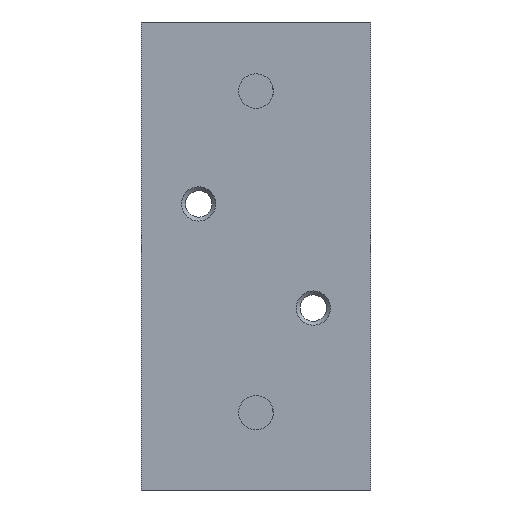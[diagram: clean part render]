
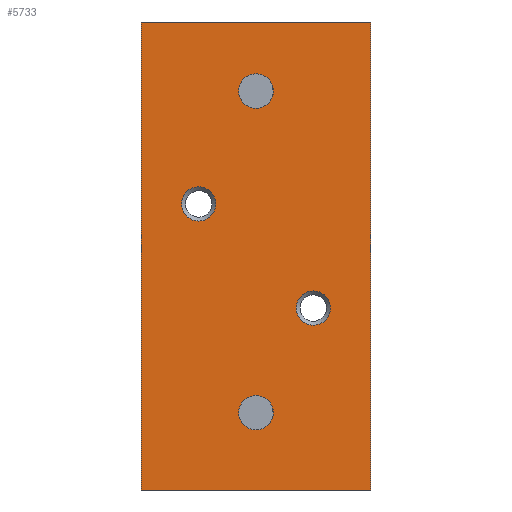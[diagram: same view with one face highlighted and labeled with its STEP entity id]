
A CAD part, front view. The second image highlights one B-rep face of the part: STEP entity #5733.
In plain terms, the highlighted planar face has unit normal (0, -1, 0).
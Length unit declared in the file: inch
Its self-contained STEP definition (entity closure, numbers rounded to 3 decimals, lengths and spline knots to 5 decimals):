
#280=FACE_BOUND('',#1276,.T.);
#281=FACE_BOUND('',#1277,.T.);
#282=FACE_BOUND('',#1278,.T.);
#283=FACE_BOUND('',#1279,.T.);
#737=PLANE('',#6119);
#938=FACE_OUTER_BOUND('',#1275,.T.);
#1275=EDGE_LOOP('',(#4559,#4560,#4561,#4562));
#1276=EDGE_LOOP('',(#4563));
#1277=EDGE_LOOP('',(#4564));
#1278=EDGE_LOOP('',(#4565));
#1279=EDGE_LOOP('',(#4566));
#1719=LINE('',#9271,#2138);
#1720=LINE('',#9273,#2139);
#1721=LINE('',#9275,#2140);
#1722=LINE('',#9276,#2141);
#2138=VECTOR('',#6768,0.3937);
#2139=VECTOR('',#6769,0.3937);
#2140=VECTOR('',#6770,0.3937);
#2141=VECTOR('',#6771,0.3937);
#2314=CIRCLE('',#6038,0.131);
#2317=CIRCLE('',#6042,0.131);
#2322=CIRCLE('',#6117,0.13);
#2324=CIRCLE('',#6120,0.13);
#2372=VERTEX_POINT('',#7407);
#2375=VERTEX_POINT('',#7415);
#2632=VERTEX_POINT('',#9263);
#2634=VERTEX_POINT('',#9269);
#2635=VERTEX_POINT('',#9270);
#2636=VERTEX_POINT('',#9272);
#2637=VERTEX_POINT('',#9274);
#2638=VERTEX_POINT('',#9277);
#2939=EDGE_CURVE('',#2372,#2372,#2314,.T.);
#2943=EDGE_CURVE('',#2375,#2375,#2317,.T.);
#3324=EDGE_CURVE('',#2632,#2632,#2322,.T.);
#3327=EDGE_CURVE('',#2634,#2635,#1719,.T.);
#3328=EDGE_CURVE('',#2636,#2634,#1720,.T.);
#3329=EDGE_CURVE('',#2637,#2636,#1721,.T.);
#3330=EDGE_CURVE('',#2635,#2637,#1722,.T.);
#3331=EDGE_CURVE('',#2638,#2638,#2324,.T.);
#4559=ORIENTED_EDGE('',*,*,#3327,.F.);
#4560=ORIENTED_EDGE('',*,*,#3328,.F.);
#4561=ORIENTED_EDGE('',*,*,#3329,.F.);
#4562=ORIENTED_EDGE('',*,*,#3330,.F.);
#4563=ORIENTED_EDGE('',*,*,#2939,.T.);
#4564=ORIENTED_EDGE('',*,*,#2943,.T.);
#4565=ORIENTED_EDGE('',*,*,#3331,.F.);
#4566=ORIENTED_EDGE('',*,*,#3324,.F.);
#5733=ADVANCED_FACE('',(#938,#280,#281,#282,#283),#737,.T.);
#6038=AXIS2_PLACEMENT_3D('',#7409,#6360,#6361);
#6042=AXIS2_PLACEMENT_3D('',#7417,#6369,#6370);
#6117=AXIS2_PLACEMENT_3D('',#9264,#6761,#6762);
#6119=AXIS2_PLACEMENT_3D('',#9268,#6766,#6767);
#6120=AXIS2_PLACEMENT_3D('',#9278,#6772,#6773);
#6360=DIRECTION('center_axis',(0.,1.,0.));
#6361=DIRECTION('ref_axis',(1.,0.,0.));
#6369=DIRECTION('center_axis',(0.,1.,0.));
#6370=DIRECTION('ref_axis',(1.,0.,0.));
#6761=DIRECTION('center_axis',(0.,-1.,0.));
#6762=DIRECTION('ref_axis',(1.,0.,0.));
#6766=DIRECTION('center_axis',(0.,-1.,0.));
#6767=DIRECTION('ref_axis',(0.,0.,-1.));
#6768=DIRECTION('',(1.,0.,0.));
#6769=DIRECTION('',(0.,0.,1.));
#6770=DIRECTION('',(-1.,0.,0.));
#6771=DIRECTION('',(0.,0.,-1.));
#6772=DIRECTION('center_axis',(0.,-1.,0.));
#6773=DIRECTION('ref_axis',(1.,0.,0.));
#7407=CARTESIAN_POINT('',(-0.131,0.,1.25128));
#7409=CARTESIAN_POINT('Origin',(0.,0.,1.25128));
#7415=CARTESIAN_POINT('',(-0.131,0.,-1.18872));
#7417=CARTESIAN_POINT('Origin',(0.,0.,-1.18872));
#9263=CARTESIAN_POINT('',(-0.565,0.,0.395));
#9264=CARTESIAN_POINT('Origin',(-0.435,0.,0.395));
#9268=CARTESIAN_POINT('Origin',(0.,0.,0.));
#9269=CARTESIAN_POINT('',(-0.87,0.,1.775));
#9270=CARTESIAN_POINT('',(0.87,0.,1.775));
#9271=CARTESIAN_POINT('',(-0.87,0.,1.775));
#9272=CARTESIAN_POINT('',(-0.87,0.,-1.775));
#9273=CARTESIAN_POINT('',(-0.87,0.,-1.775));
#9274=CARTESIAN_POINT('',(0.87,0.,-1.775));
#9275=CARTESIAN_POINT('',(0.87,0.,-1.775));
#9276=CARTESIAN_POINT('',(0.87,0.,1.775));
#9277=CARTESIAN_POINT('',(0.305,0.,-0.395));
#9278=CARTESIAN_POINT('Origin',(0.435,0.,-0.395));
